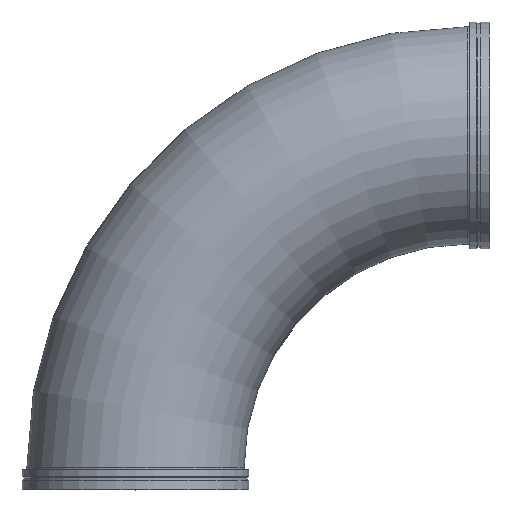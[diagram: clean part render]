
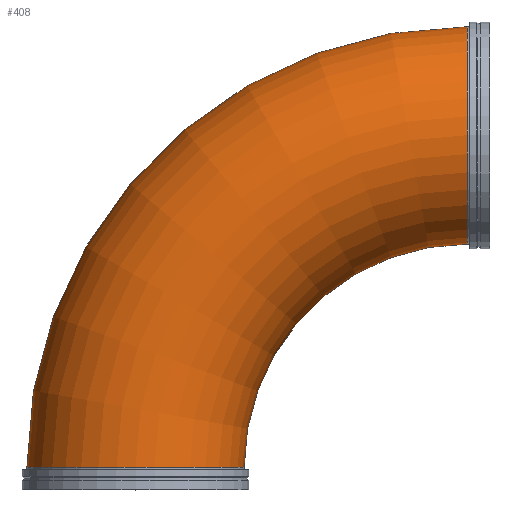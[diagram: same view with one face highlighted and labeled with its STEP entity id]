
A CAD part, top view. The second image highlights one B-rep face of the part: STEP entity #408.
In plain terms, the highlighted toroidal (fillet/blend) face has major radius 1784.35 mm and minor radius 584.2 mm.
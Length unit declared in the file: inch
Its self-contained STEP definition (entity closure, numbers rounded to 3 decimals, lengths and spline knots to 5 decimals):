
#46=TOROIDAL_SURFACE('',#484,70.25,23.);
#105=FACE_OUTER_BOUND('',#129,.T.);
#129=EDGE_LOOP('',(#346,#347,#348,#349,#350,#351));
#169=CIRCLE('',#482,23.);
#170=CIRCLE('',#483,23.);
#171=CIRCLE('',#485,47.25);
#172=CIRCLE('',#486,23.);
#173=CIRCLE('',#487,23.);
#207=VERTEX_POINT('',#756);
#208=VERTEX_POINT('',#758);
#209=VERTEX_POINT('',#762);
#210=VERTEX_POINT('',#764);
#256=EDGE_CURVE('',#207,#208,#169,.T.);
#257=EDGE_CURVE('',#208,#207,#170,.T.);
#258=EDGE_CURVE('',#208,#209,#171,.T.);
#259=EDGE_CURVE('',#209,#210,#172,.T.);
#260=EDGE_CURVE('',#210,#209,#173,.T.);
#346=ORIENTED_EDGE('',*,*,#256,.F.);
#347=ORIENTED_EDGE('',*,*,#257,.F.);
#348=ORIENTED_EDGE('',*,*,#258,.T.);
#349=ORIENTED_EDGE('',*,*,#259,.T.);
#350=ORIENTED_EDGE('',*,*,#260,.T.);
#351=ORIENTED_EDGE('',*,*,#258,.F.);
#408=ADVANCED_FACE('',(#105),#46,.T.);
#482=AXIS2_PLACEMENT_3D('',#759,#617,#618);
#483=AXIS2_PLACEMENT_3D('',#760,#619,#620);
#484=AXIS2_PLACEMENT_3D('',#761,#621,#622);
#485=AXIS2_PLACEMENT_3D('',#763,#623,#624);
#486=AXIS2_PLACEMENT_3D('',#765,#625,#626);
#487=AXIS2_PLACEMENT_3D('',#766,#627,#628);
#617=DIRECTION('center_axis',(1.,0.,0.));
#618=DIRECTION('ref_axis',(0.,-1.,0.));
#619=DIRECTION('center_axis',(1.,0.,0.));
#620=DIRECTION('ref_axis',(0.,-1.,0.));
#621=DIRECTION('center_axis',(0.,0.,-1.));
#622=DIRECTION('ref_axis',(-1.,0.,0.));
#623=DIRECTION('center_axis',(0.,0.,1.));
#624=DIRECTION('ref_axis',(-1.,0.,0.));
#625=DIRECTION('center_axis',(0.,1.,0.));
#626=DIRECTION('ref_axis',(1.,0.,0.));
#627=DIRECTION('center_axis',(0.,1.,0.));
#628=DIRECTION('ref_axis',(1.,0.,0.));
#756=CARTESIAN_POINT('',(70.25,98.,0.));
#758=CARTESIAN_POINT('',(70.25,52.,0.));
#759=CARTESIAN_POINT('Origin',(70.25,75.,0.));
#760=CARTESIAN_POINT('Origin',(70.25,75.,0.));
#761=CARTESIAN_POINT('Origin',(70.25,4.75,0.));
#762=CARTESIAN_POINT('',(23.,4.75,0.));
#763=CARTESIAN_POINT('Origin',(70.25,4.75,0.));
#764=CARTESIAN_POINT('',(-23.,4.75,0.));
#765=CARTESIAN_POINT('Origin',(0.,4.75,0.));
#766=CARTESIAN_POINT('Origin',(0.,4.75,0.));
